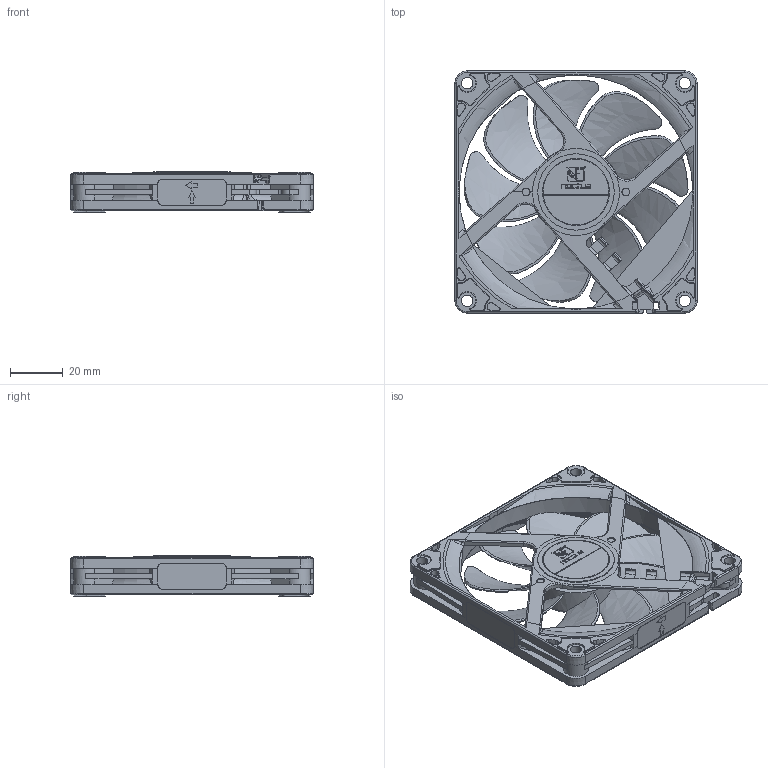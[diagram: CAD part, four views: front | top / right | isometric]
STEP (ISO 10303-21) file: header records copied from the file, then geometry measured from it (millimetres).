
FILE_DESCRIPTION(/* description */ ('140mm Desk Fan'),/* implementation_level */ '2;1');
FILE_NAME(/* name */ 'NF-A9x14_Public-CAD',/* time_stamp */ '2026-03-27T12:23:19+01:00',/* author */ ('Andreas'),/* organization */ ('Rascom'),/* preprocessor_version */ 'ST-DEVELOPER v18.102',/* originating_system */ 'Solid Edge',/* authorisation */ 'Unknown');
FILE_SCHEMA (('AUTOMOTIVE_DESIGN {1 0 10303 214 3 1 1}'));
Products named in the file (5): NF-A9x14_Public-CAD; NF-A9x14_Frame-public; NF-A9x14_Impeller-public; NA-AVP8; Fan-Label-D29mm-Regular
Assembly tree (11 placements, depth 2):
  NF-A9x14_Public-CAD
    NF-A9x14_Frame-public
    NF-A9x14_Impeller-public
    NA-AVP8  x8
    Fan-Label-D29mm-Regular
Bounding box: 92 x 92 x 15.25 mm (x, y, z)
Volume: 41920.2 mm3; surface area: 37799.4 mm2
Topology: 11 solids, 11 shells, 1372 faces, 3732 edges, 2436 vertices
Faces by surface type: plane 483, cylinder 366, cone 249, bspline 146, torus 120, sphere 8
Full cylindrical faces by diameter (mm): 25.4 x1, 29 x2, 33.5 x1, 88.756 x1
Entity records: 53265 total; most frequent: CARTESIAN_POINT 24369, ORIENTED_EDGE 6642, DIRECTION 4376, EDGE_CURVE 3321, VERTEX_POINT 2167, AXIS2_PLACEMENT_3D 1549, B_SPLINE_CURVE_WITH_KNOTS 1527, EDGE_LOOP 1308
